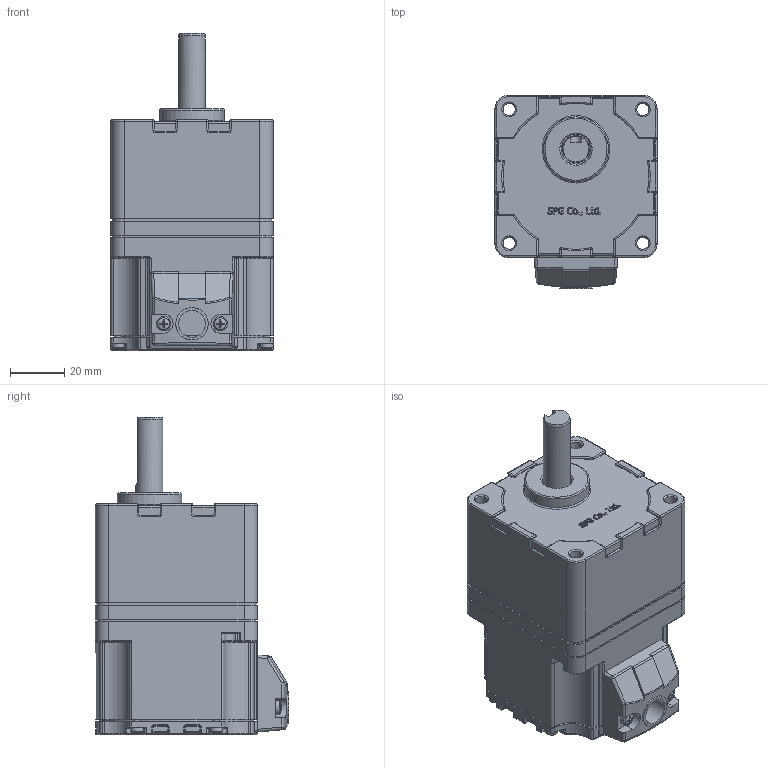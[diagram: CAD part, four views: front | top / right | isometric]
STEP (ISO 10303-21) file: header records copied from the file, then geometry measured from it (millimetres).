
FILE_DESCRIPTION((''),'2;1');
FILE_NAME('C:\Documents and Settings\Administrator\바탕 화면\BLDC 3D FILE\GEARED MOTOR\60-RATIO 200.stp','2014-06-19T16:06:11',('kdhkdh'),(''),'Autodesk Inventor 2011','Autodesk Inventor 2011','');
FILE_SCHEMA(('AUTOMOTIVE_DESIGN { 1 0 10303 214 1 1 1 1 }'));
Length unit declared in the file: millimetre
Products named in the file (1): 부품1
Bounding box: 60 x 71.5 x 117.5 mm (x, y, z)
Volume: 287763.5 mm3; surface area: 46411.9 mm2
Topology: 1 solids, 11 shells, 1282 faces, 3182 edges, 1908 vertices
Faces by surface type: cylinder 421, plane 375, bspline 176, torus 161, cone 97, sphere 52
Full cylindrical faces by diameter (mm): 2.256 x4, 2.5 x4, 2.6 x10, 2.729 x2, 2.8 x4, 3 x6, 3.5 x2, 4.5 x8, 4.7 x4, 4.76 x1, 5 x8, 5.3 x2, 5.7 x1, 6 x1, 10 x2, 11 x1, 12 x1, 14 x1, 24 x1, 46 x1, 54 x1, 57.5 x2
Entity records: 40050 total; most frequent: CARTESIAN_POINT 11109, DIRECTION 6030, ORIENTED_EDGE 5876, EDGE_CURVE 2938, AXIS2_PLACEMENT_3D 2405, VERTEX_POINT 1853, EDGE_LOOP 1478, FACE_OUTER_BOUND 1282
